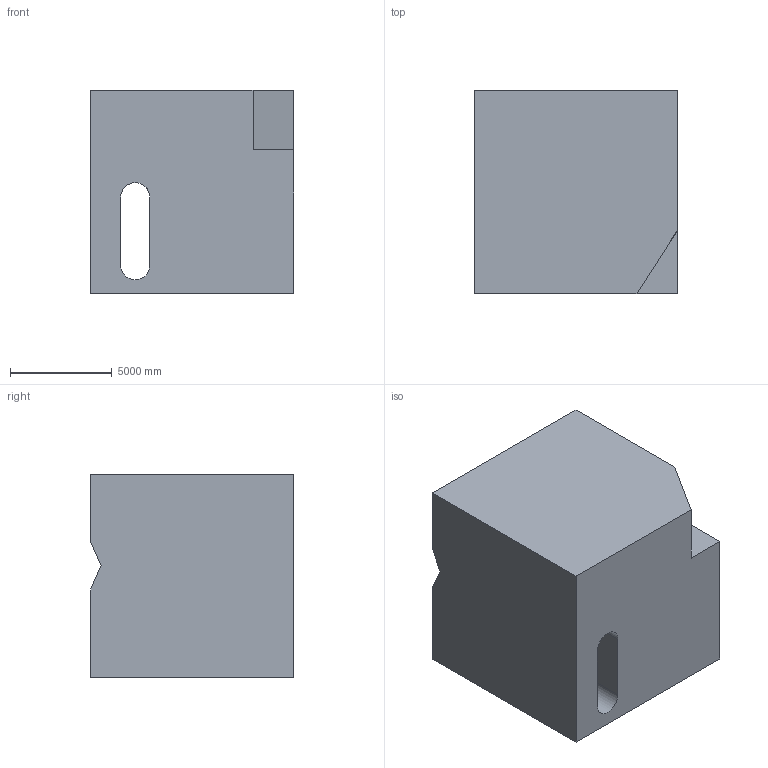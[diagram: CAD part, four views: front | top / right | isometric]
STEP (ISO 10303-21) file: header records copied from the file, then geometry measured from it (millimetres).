
FILE_DESCRIPTION (( 'STEP AP203' ), '1' );
FILE_NAME ('249.STEP', '2022-07-28T14:05:54', ( 'user' ), ( '' ), 'SwSTEP 2.0', 'SolidWorks 2021', '' );
FILE_SCHEMA (( 'CONFIG_CONTROL_DESIGN' ));
Length unit declared in the file: centimetre
Products named in the file (1): 249
Bounding box: 10000 x 10000 x 10000 mm (x, y, z)
Volume: 920954980232.9 mm3; surface area: 694869606.1 mm2
Topology: 1 solids, 1 shells, 16 faces, 45 edges, 30 vertices
Faces by surface type: plane 13, cylinder 3
Entity records: 594 total; most frequent: CARTESIAN_POINT 98, ORIENTED_EDGE 90, DIRECTION 81, EDGE_CURVE 45, LINE 39, VECTOR 39, VERTEX_POINT 30, AXIS2_PLACEMENT_3D 21
